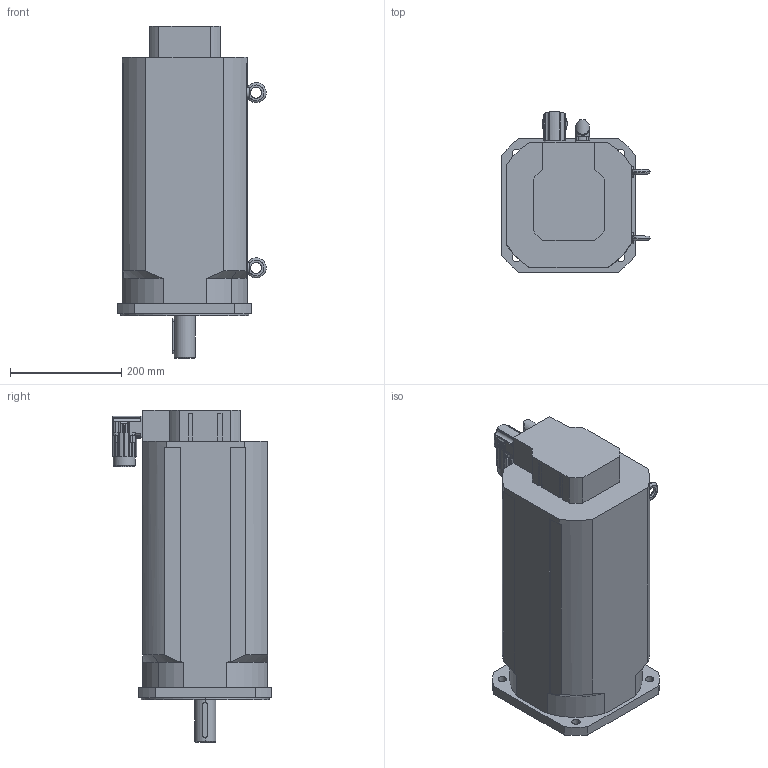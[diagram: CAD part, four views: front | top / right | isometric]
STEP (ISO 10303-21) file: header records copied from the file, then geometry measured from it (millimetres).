
FILE_DESCRIPTION(('STEP AP203'),'2;1');
FILE_NAME('MT8-0930_BX.stp','2006-08-28T20:55:27',(''),(''),'2005.2.102','THINKDESIGN','');
FILE_SCHEMA(('CONFIG_CONTROL_DESIGN'));
Length unit declared in the file: millimetre
Bounding box: 266.5 x 287.18 x 597 mm (x, y, z)
Volume: 23204927.8 mm3; surface area: 576867.5 mm2
Topology: 5 solids, 5 shells, 534 faces, 1442 edges, 929 vertices
Faces by surface type: cylinder 259, plane 194, bspline 81
Full cylindrical faces by diameter (mm): 20 x2, 23 x1, 37.8 x1, 40 x1
Entity records: 19287 total; most frequent: CARTESIAN_POINT 5926, ORIENTED_EDGE 2872, DIRECTION 2774, EDGE_CURVE 1436, AXIS2_PLACEMENT_3D 1055, VERTEX_POINT 929, VECTOR 664, LINE 664
